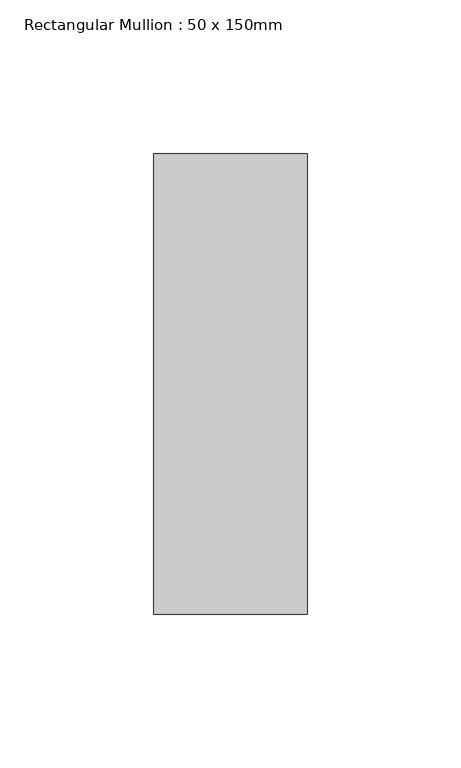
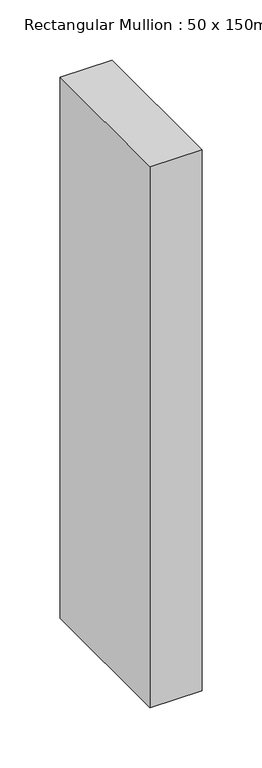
"""IFC4 building model written with IfcOpenShell, lengths in millimetres: member geometry, Rectangular Mullion : 50 x 150mm."""

from ifc_helpers import new_model, si_unit, frame, origin, place, context, project, spatial, polyline, outline, extrude, source, transform, mapped, element, save


def rectangular_mullion_50_x_150mm_0200b82d(model_context):
    return source(origin(), model_context, "Body", "SweptSolid", [
        extrude(outline(polyline([(25.0, 75.0), (25.0, -75.0), (-25.0, -75.0), (-25.0, 75.0), (25.0, 75.0)])), frame((0.0, 0.0, -549.9999999), z_axis=(0.0, 0.0, 1.0), x_axis=(1.0, 0.0, 0.0)), (0.0, 0.0, 1.0), 549.9999999),
    ])


if __name__ == "__main__":
    model = new_model("IFC4")
    model_context = context("Model", 3, world=origin())
    ifc_project = project(units=[si_unit("LENGTHUNIT", "METRE", prefix="MILLI")], contexts=[model_context])
    site = spatial("IfcSite", under=ifc_project)
    building = spatial("IfcBuilding", under=site)
    placement = place(None, origin())
    rectangular_mullion_50_x_150mm_shape = rectangular_mullion_50_x_150mm_0200b82d(model_context)
    element("IfcMember", 1, ObjectType="Rectangular Mullion : 50 x 150mm", at=placement, inside=building, context=model_context, shape_type="MappedRepresentation", body=[
        mapped(rectangular_mullion_50_x_150mm_shape, transform((0.0, 0.0, 0.0), x_axis=(1.0, 0.0, 0.0), y_axis=(0.0, 1.0, 0.0), z_axis=(0.0, 0.0, 1.0))),
    ])
    save(model, "model.ifc")
